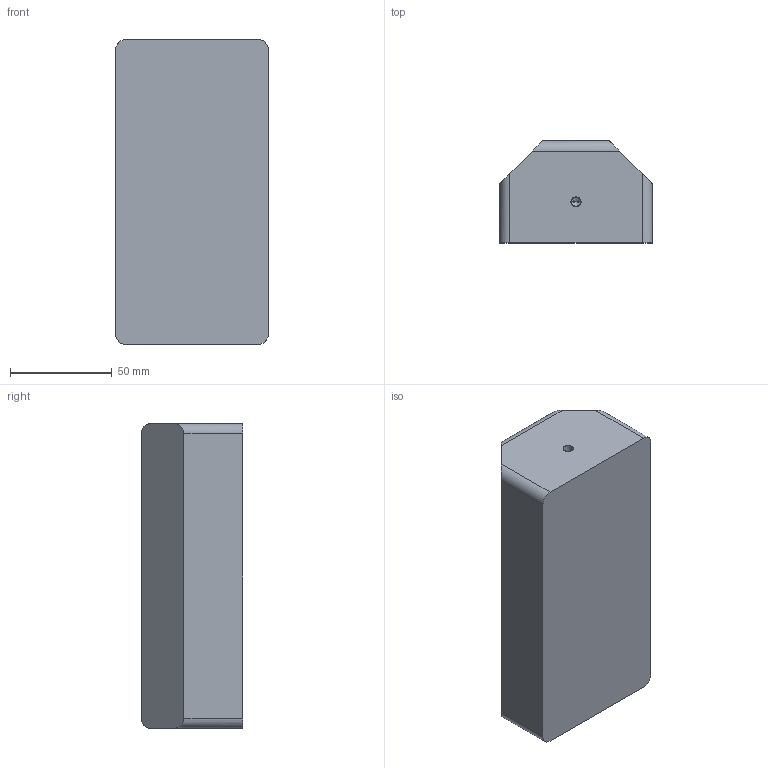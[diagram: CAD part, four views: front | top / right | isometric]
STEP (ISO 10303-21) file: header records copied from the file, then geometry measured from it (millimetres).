
FILE_DESCRIPTION (( 'STEP AP214' ), '1' );
FILE_NAME ('0035425.STEP', '2022-02-28T11:26:12', ( '' ), ( '' ), 'SwSTEP 2.0', 'SolidWorks 2021', '' );
FILE_SCHEMA (( 'AUTOMOTIVE_DESIGN' ));
Length unit declared in the file: millimetre
Products named in the file (1): 0035425
Bounding box: 75 x 50 x 150 mm (x, y, z)
Volume: 491908.8 mm3; surface area: 42463.5 mm2
Topology: 4 solids, 4 shells, 102 faces, 232 edges, 140 vertices
Faces by surface type: cylinder 38, plane 34, cone 20, torus 8, sphere 2
Entity records: 3971 total; most frequent: DIRECTION 518, CARTESIAN_POINT 487, ORIENTED_EDGE 440, EDGE_CURVE 220, AXIS2_PLACEMENT_3D 203, VERTEX_POINT 140, EDGE_LOOP 118, LINE 112
